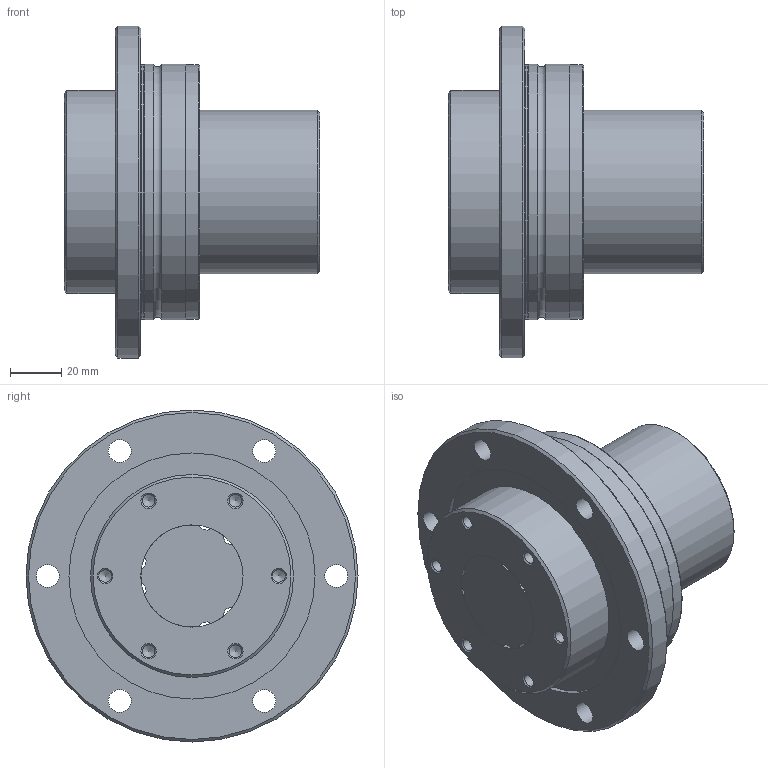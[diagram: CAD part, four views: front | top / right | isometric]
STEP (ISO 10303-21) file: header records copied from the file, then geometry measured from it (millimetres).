
FILE_DESCRIPTION(/* description */ ('STEP AP203'),/* implementation_level */ '2;1');
FILE_NAME(/* name */ 'LTR40A+100L(0_0)',/* time_stamp */ '2024-05-28T07:52:24+02:00',/* author */ ('License CC BY-ND 4.0'),/* organization */ ('CADENAS'),/* preprocessor_version */ 'ST-DEVELOPER v19.3',/* originating_system */ 'PARTsolutions',/* authorisation */ ' ');
FILE_SCHEMA (('CONFIG_CONTROL_DESIGN'));
Length unit declared in the file: millimetre
Products named in the file (3): LTR40A+100L(0,0); LTR 40A100 LTRA Shaft; LTR 40A LTRA ACyl
Assembly tree (3 placements, depth 2):
  LTR40A+100L(0,0)
    LTR 40A100 LTRA Shaft
    LTR 40A LTRA ACyl  x2
Bounding box: 100 x 130 x 130 mm (x, y, z)
Volume: 963950.1 mm3; surface area: 149670.5 mm2
Topology: 3 solids, 3 shells, 122 faces, 284 edges, 184 vertices
Faces by surface type: cylinder 60, cone 34, plane 22, torus 6
Full cylindrical faces by diameter (mm): 3 x2, 4.917 x12, 9 x12, 40 x2, 64 x2, 75 x2, 79.5 x2, 90 x2, 96.364 x2, 99.5 x2, 99.6 x2, 100 x4, 130 x2
Entity records: 1734 total; most frequent: DIRECTION 322, CARTESIAN_POINT 276, ORIENTED_EDGE 192, AXIS2_PLACEMENT_3D 155, FACE_BOUND 140, EDGE_LOOP 134, EDGE_CURVE 96, VERTEX_POINT 90
